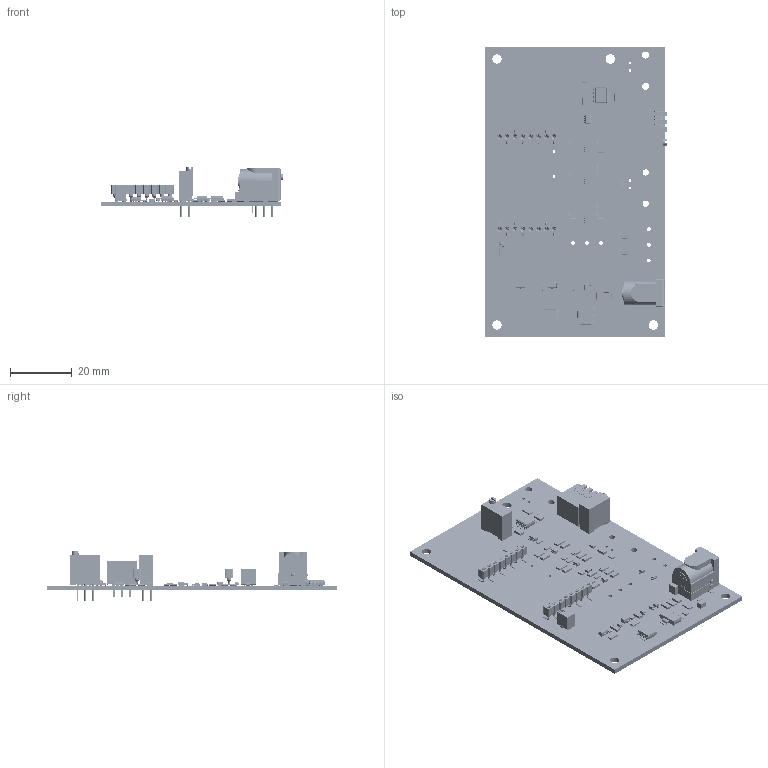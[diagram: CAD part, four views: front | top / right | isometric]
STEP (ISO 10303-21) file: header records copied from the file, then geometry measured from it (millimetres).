
FILE_DESCRIPTION(('FreeCAD Model'),'2;1');
FILE_NAME('Open CASCADE Shape Model','2022-10-15T09:34:17',('Author'),( ''),'Open CASCADE STEP processor 7.5','FreeCAD','Unknown');
FILE_SCHEMA(('AUTOMOTIVE_DESIGN { 1 0 10303 214 1 1 1 1 }'));
Length unit declared in the file: millimetre
Products named in the file (55): CR_160_R9; CR-160-R9; Board_Geoms_3e3d; Pcb_3e3d; topPads_3e3d; topTracks_3e3d; botPads_3e3d; botTracks_3e3d; botZones_3e3d; topSilks_8d2d; Top_3e3d; R101; U7; SW1-piano; 194-40-103; 194-3 pole assembly; 193-56-001; 193-56-002; 193-56-003; R9; R8-trimpot-fine-gain; C1; Barrel-connector; CUI_DEVICES_PJ-002AH-SMT-TR; CUI_DEVICES_PJ-002AH-SMT-TR001; CUI_DEVICES_PJ-002AH-SMT-TR002; CUI_DEVICES_PJ-002AH-SMT-TR003; CUI_DEVICES_PJ-002AH-SMT-TR004; CUI_DEVICES_PJ-002AH-SMT-TR005; CUI_DEVICES_PJ-002AH-SMT-TR006; L101; User Library-IND_1007; User Library-IND_1008; User Library-IND_1009; U4; U1; D101; L1; Q101; U101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
Assembly tree (174 placements, depth 6):
  CR_160_R9
    CR-160-R9
      Board_Geoms_3e3d
        Pcb_3e3d
        topPads_3e3d
        topTracks_3e3d
        botPads_3e3d
        botTracks_3e3d
        botZones_3e3d
        topSilks_8d2d
        Top_3e3d
          R101  x14
          U7
          SW1-piano
            194-40-103
            194-3 pole assembly
            193-56-001
            193-56-002
            193-56-003
          R9  x11
          R8-trimpot-fine-gain
          C1  x14
          Barrel-connector
            CUI_DEVICES_PJ-002AH-SMT-TR
            CUI_DEVICES_PJ-002AH-SMT-TR001
            CUI_DEVICES_PJ-002AH-SMT-TR002
            CUI_DEVICES_PJ-002AH-SMT-TR003
            CUI_DEVICES_PJ-002AH-SMT-TR004
            CUI_DEVICES_PJ-002AH-SMT-TR005
            CUI_DEVICES_PJ-002AH-SMT-TR006
          L101
            User Library-IND_1007
            User Library-IND_1008
            User Library-IND_1009
          U4  x2
          U1  x3
          D101  x6
          L1  x2
          Q101  x2
          U101
          U102  x2
            ISO1541QDRQ1
            ISO1541QDRQ002
            ISO1541QDRQ003
            ISO1541QDRQ004
            ISO1541QDRQ005
            ISO1541QDRQ006
            ISO1541QDRQ007
            ISO1541QDRQ008
            ISO1541QDRQ009
            ISO1541QDRQ010
          R25-trimpot-offset
          200k-trimpot
    Board_Geoms_3e3d
      Pcb_3e3d
      topPads_3e3d
      topTracks_3e3d
      botPads_3e3d
      botTracks_3e3d
      botZones_3e3d
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Bounding box: 58.93 x 93.98 x 16.03 mm (x, y, z)
Volume: 38821 mm3; surface area: 75367.7 mm2
Topology: 395 solids, 2570 shells, 19563 faces, 137123 edges, 125065 vertices
Faces by surface type: plane 10785, bspline 5472, cylinder 3222, sphere 56, torus 28
Full cylindrical faces by diameter (mm): 0.25 x4, 0.5 x24, 0.711 x18, 0.813 x18, 0.889 x12, 0.914 x6, 1.27 x18, 1.6 x3, 1.803 x3, 2.032 x6, 2.2 x8, 2.286 x6, 3.048 x12
Entity records: 347915 total; most frequent: CARTESIAN_POINT 92330, ORIENTED_EDGE 41182, DIRECTION 40882, EDGE_CURVE 35839, VERTEX_POINT 33912, LINE 32274, VECTOR 32274, AXIS2_PLACEMENT_3D 4304
